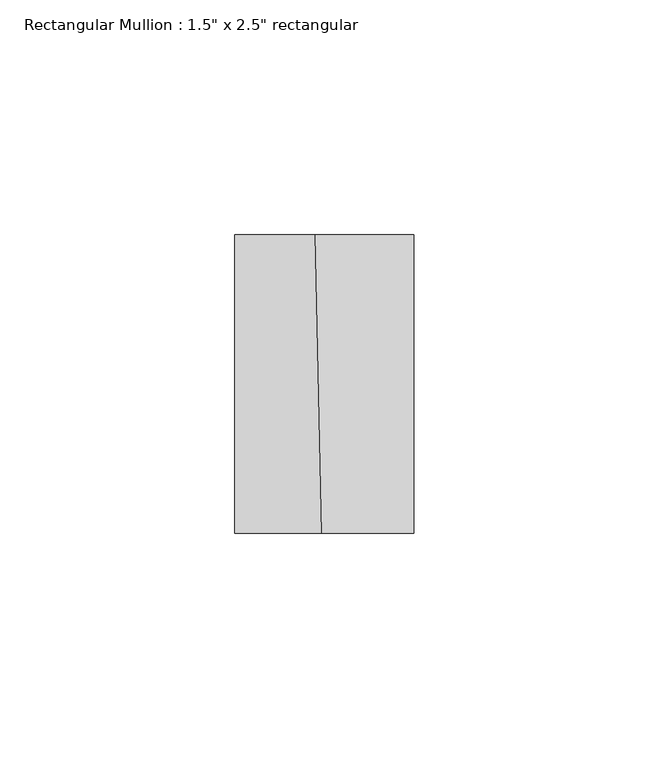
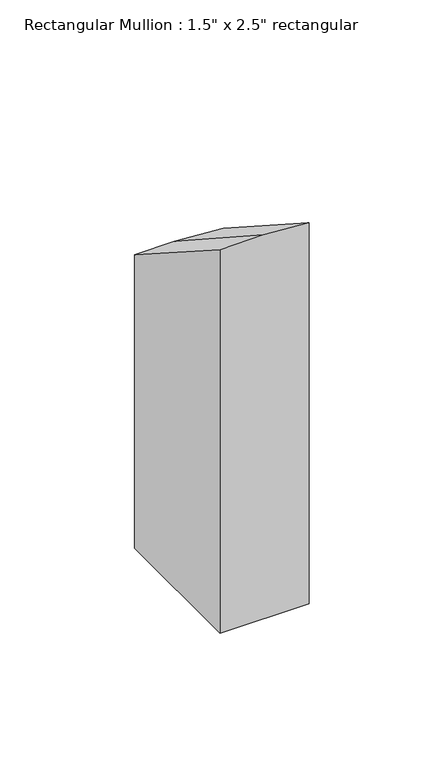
"""IFC4 building model written with IfcOpenShell, lengths in millimetres: member geometry."""

import ifcopenshell
import ifcopenshell.guid

model = None  # the IFC model being written
_history = None  # IfcOwnerHistory: only IFC2X3 demands one
_inside = {}  # id of a spatial element -> (the spatial element, [elements in it])
_under = {}  # id of a project, library or spatial element -> (it, [spatial elements below it])
_declared = {}  # id of a project -> (the project, [libraries it declares])
_typed = {}  # id of a type object -> (the type object, [elements of that type])
_made_of = {}  # id of a material, layer set ... -> (it, [elements and type objects made of it])


def new_model(schema):
    """Start an empty IFC model of exactly this schema.

    Asked for "IFC4X3", IfcOpenShell would pick the latest addendum, in which some entities
    have other attributes; the version numbers below select the first issue.
    IFC2X3 requires an IfcOwnerHistory on every rooted entity: one is made here for all.
    """
    global model, _history
    if schema == "IFC4X3":
        model = ifcopenshell.file(schema_version=(4, 3, 0, 0))
    else:
        model = ifcopenshell.file(schema=schema)
    _inside.clear()
    _under.clear()
    _declared.clear()
    _typed.clear()
    _made_of.clear()
    _history = None
    if model.schema == "IFC2X3":
        org = make("IfcOrganization", Name="unknown")
        user = make(
            "IfcPersonAndOrganization",
            ThePerson=make("IfcPerson", FamilyName="unknown"),
            TheOrganization=org,
        )
        app = make(
            "IfcApplication",
            ApplicationDeveloper=org,
            Version="unknown",
            ApplicationFullName="unknown",
            ApplicationIdentifier="unknown",
        )
        _history = make(
            "IfcOwnerHistory",
            OwningUser=user,
            OwningApplication=app,
            ChangeAction="ADDED",
            CreationDate=0,
        )
    return model


def make(cls, **values):
    """One entity of the class cls with the attributes given. An attribute that is None is left unset."""
    return model.create_entity(
        cls, **{name: value for name, value in values.items() if value is not None}
    )


def rooted(cls, **values):
    """An entity with a GlobalId (a new one), such as an element, a storey or a relation."""
    return make(cls, GlobalId=ifcopenshell.guid.new(), OwnerHistory=_history, **values)


def si_unit(unit_type, name, prefix=None):
    """IfcSIUnit, for example si_unit("LENGTHUNIT", "METRE", prefix="MILLI")."""
    return make("IfcSIUnit", UnitType=unit_type, Prefix=prefix, Name=name)


def assignment(units):
    """IfcUnitAssignment: the units of a project."""
    return None if units is None else make("IfcUnitAssignment", Units=units)


def point(xyz):
    """IfcCartesianPoint."""
    return None if xyz is None else make("IfcCartesianPoint", Coordinates=xyz)


def direction(xyz):
    """IfcDirection."""
    return None if xyz is None else make("IfcDirection", DirectionRatios=xyz)


def frame(location, z_axis=None, x_axis=None):
    """IfcAxis2Placement3D, a coordinate frame: its origin and axes. An axis left out is left unset."""
    return make(
        "IfcAxis2Placement3D",
        Location=point(location),
        Axis=direction(z_axis),
        RefDirection=direction(x_axis),
    )


def origin():
    """The frame at (0, 0, 0) with its axes left unset."""
    return frame((0.0, 0.0, 0.0))


def place(relative_to, where):
    """IfcLocalPlacement: puts the frame where relative to a parent placement (None: the world)."""
    return make(
        "IfcLocalPlacement", PlacementRelTo=relative_to, RelativePlacement=where
    )


def context(
    kind, dimensions, precision=None, world=None, true_north=None, identifier=None
):
    """IfcGeometricRepresentationContext, for example the 3D "Model" context."""
    return make(
        "IfcGeometricRepresentationContext",
        ContextIdentifier=identifier,
        ContextType=kind,
        CoordinateSpaceDimension=dimensions,
        Precision=precision,
        WorldCoordinateSystem=world,
        TrueNorth=true_north,
    )


def project(units=None, contexts=None):
    """IfcProject with its units and contexts."""
    return rooted(
        "IfcProject",
        Name="project",
        RepresentationContexts=contexts,
        UnitsInContext=assignment(units),
    )


def spatial(cls, under=None, at=None, **own):
    """A site, building, storey or space (cls), placed at a placement, below another one or the project."""
    s = rooted(cls, ObjectPlacement=at, **own)
    if under is not None:
        _under.setdefault(under.id(), (under, []))[1].append(s)
    return s


def faces_of(points, faces, orient=None, outer=None):
    """IfcFace entities. A face is a list of loops; a loop is a list of indices into points, from 0.

    orient and outer hold one flag for each loop. By default every Orientation is true, the
    first loop of a face is its IfcFaceOuterBound and the others are IfcFaceBound.
    """
    made = []
    for i, loops in enumerate(faces):
        bounds = []
        for j, loop in enumerate(loops):
            is_outer = j == 0 if outer is None else outer[i][j]
            bounds.append(
                make(
                    "IfcFaceOuterBound" if is_outer else "IfcFaceBound",
                    Bound=make("IfcPolyLoop", Polygon=[points[k] for k in loop]),
                    Orientation=True if orient is None else orient[i][j],
                )
            )
        made.append(make("IfcFace", Bounds=bounds))
    return made


def faceted_brep(points, faces, orient=None, outer=None, voids=None):
    """IfcFacetedBrep: a solid bounded by flat faces; with voids (closed shells), ...WithVoids."""
    shared = [point(p) for p in points]
    hull = make("IfcClosedShell", CfsFaces=faces_of(shared, faces, orient, outer))
    if voids is None:
        return make("IfcFacetedBrep", Outer=hull)
    return make(
        "IfcFacetedBrepWithVoids",
        Outer=hull,
        Voids=[
            make(cls, CfsFaces=faces_of(shared, fs, o, b)) for cls, fs, o, b in voids
        ],
    )


def shape(context_of_items, identifier, shape_type, items):
    """IfcShapeRepresentation: the items that make up one representation, for example the "Body"."""
    return make(
        "IfcShapeRepresentation",
        ContextOfItems=context_of_items,
        RepresentationIdentifier=identifier,
        RepresentationType=shape_type,
        Items=items,
    )


def source(mapping_origin, context_of_items, identifier, shape_type, items):
    """IfcRepresentationMap: a shape defined once, which mapped items show again and again."""
    return make(
        "IfcRepresentationMap",
        MappingOrigin=mapping_origin,
        MappedRepresentation=shape(context_of_items, identifier, shape_type, items),
    )


def transform(
    local_origin,
    x_axis=None,
    y_axis=None,
    z_axis=None,
    scale=None,
    scale2=None,
    scale3=None,
    uniform=True,
):
    """IfcCartesianTransformationOperator3D, or its non-uniform kind. x_axis, y_axis, z_axis: its Axis1, 2, 3."""
    if uniform:
        return make(
            "IfcCartesianTransformationOperator3D",
            Axis1=direction(x_axis),
            Axis2=direction(y_axis),
            LocalOrigin=point(local_origin),
            Scale=scale,
            Axis3=direction(z_axis),
        )
    return make(
        "IfcCartesianTransformationOperator3DnonUniform",
        Axis1=direction(x_axis),
        Axis2=direction(y_axis),
        LocalOrigin=point(local_origin),
        Scale=scale,
        Axis3=direction(z_axis),
        Scale2=scale2,
        Scale3=scale3,
    )


def mapped(mapping_source, mapping_target):
    """IfcMappedItem: shows the shape of a source again, moved by a transform."""
    return make(
        "IfcMappedItem", MappingSource=mapping_source, MappingTarget=mapping_target
    )


def made_of(thing, what):
    """Note that an element or type object is made of a material, layer set ...; save() writes the relation."""
    if what is not None:
        _made_of.setdefault(what.id(), (what, []))[1].append(thing)
    return thing


def element(
    cls,
    number,
    at=None,
    inside=None,
    cuts=None,
    type_object=None,
    material=None,
    context=None,
    identifier="Body",
    shape_type=None,
    held_by="IfcProductDefinitionShape",
    body=None,
    shapes=None,
    **own,
):
    """One element of the class cls, such as IfcWall. Its Tag is "e" and its number.

    at: its placement. inside: the storey or other place that contains it. cuts: it is an
    opening in that element (IfcRelVoidsElement). A single representation is given by context,
    identifier, shape_type and body (its items); several are given by shapes. held_by: the class
    of the entity that holds the representations. save() writes the other relations.
    """
    e = rooted(cls, Tag="e%d" % number, ObjectPlacement=at, **own)
    if body is not None:
        shapes = [shape(context, identifier, shape_type, body)]
    if shapes is not None:
        e.Representation = make(held_by, Representations=shapes)
    if inside is not None:
        _inside.setdefault(inside.id(), (inside, []))[1].append(e)
    if cuts is not None:
        rooted(
            "IfcRelVoidsElement", RelatingBuildingElement=cuts, RelatedOpeningElement=e
        )
    if type_object is not None:
        _typed.setdefault(type_object.id(), (type_object, []))[1].append(e)
    return made_of(e, material)


def aggregate(whole, parts):
    """IfcRelAggregates: a whole, such as a stair, and the parts it consists of."""
    return rooted("IfcRelAggregates", RelatingObject=whole, RelatedObjects=parts)


def save(model, path):
    """Write the relations noted so far, then the file.

    IfcRelAggregates (storeys below a building ...), IfcRelContainedInSpatialStructure (elements
    in a storey), IfcRelDefinesByType, IfcRelAssociatesMaterial and IfcRelDeclares: one each for
    every whole, place, type object, material and project.
    """
    for whole, parts in _under.values():
        aggregate(whole, parts)
    for where, things in _inside.values():
        rooted(
            "IfcRelContainedInSpatialStructure",
            RelatedElements=things,
            RelatingStructure=where,
        )
    for kind, things in _typed.values():
        rooted("IfcRelDefinesByType", RelatedObjects=things, RelatingType=kind)
    for what, things in _made_of.values():
        rooted("IfcRelAssociatesMaterial", RelatedObjects=things, RelatingMaterial=what)
    for by, libraries in _declared.values():
        rooted("IfcRelDeclares", RelatingContext=by, RelatedDefinitions=libraries)
    model.write(path)


def member_b6351594(model_context):
    return source(origin(), model_context, "Body", "Brep", [
        faceted_brep([(19.05, 31.75, -191.2336547), (19.05, -31.75, -191.2336547), (-19.05, -31.75, -191.2336547), (-19.05, 31.75, -191.2336547), (-19.05, 31.75, -58.2571236), (-1.9001934, 31.75, -58.1332292), (19.05, 31.75, -59.6563561), (-19.05, -31.75, -17.4831785), (19.05, -31.75, -18.7758619), (-0.5671059, -31.75, -17.3496536)], [[[0, 1, 2, 3]], [[4, 5, 6, 0, 3]], [[7, 4, 3, 2]], [[8, 9, 7, 2, 1]], [[6, 8, 1, 0]], [[6, 5, 9, 8]], [[5, 4, 7, 9]]]),
    ])


if __name__ == "__main__":
    model = new_model("IFC4")
    model_context = context("Model", 3, world=origin())
    ifc_project = project(units=[si_unit("LENGTHUNIT", "METRE", prefix="MILLI")], contexts=[model_context])
    site = spatial("IfcSite", under=ifc_project)
    building = spatial("IfcBuilding", under=site)
    placement = place(None, origin())
    member_shape = member_b6351594(model_context)
    element("IfcMember", 1, ObjectType="Rectangular Mullion : 1.5\" x 2.5\" rectangular", at=placement, inside=building, context=model_context, shape_type="MappedRepresentation", body=[
        mapped(member_shape, transform((0.0, 0.0, 0.0), x_axis=(1.0, 0.0, 0.0), y_axis=(0.0, 1.0, 0.0), z_axis=(0.0, 0.0, 1.0))),
    ])
    save(model, "model.ifc")
